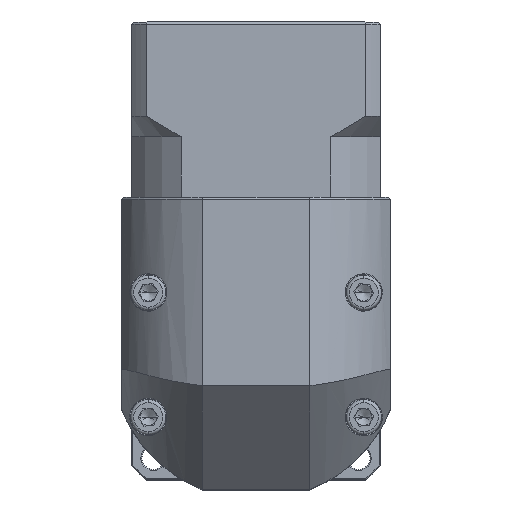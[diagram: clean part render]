
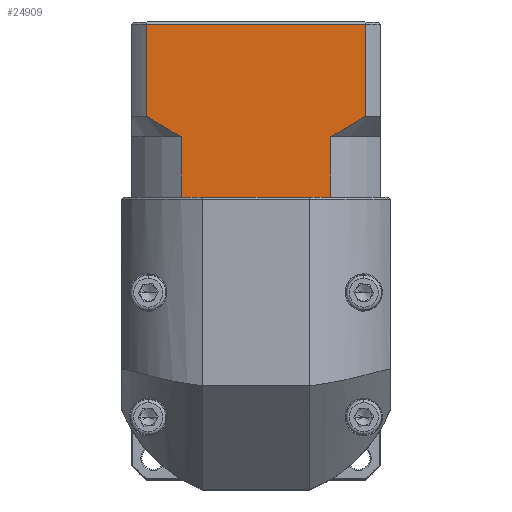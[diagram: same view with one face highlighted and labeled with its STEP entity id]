
A CAD part, top view. The second image highlights one B-rep face of the part: STEP entity #24909.
In plain terms, the highlighted planar face has unit normal (0, 0, 1).
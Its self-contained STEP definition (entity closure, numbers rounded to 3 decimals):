
#216 = ORIENTED_EDGE ( 'NONE', *, *, #7151, .T. ) ;
#362 = CARTESIAN_POINT ( 'NONE',  ( -38.563, 75.791, 65.811 ) ) ;
#4915 = EDGE_CURVE ( 'NONE', #25728, #63348, #88517, .T. ) ;
#4984 = VERTEX_POINT ( 'NONE', #103372 ) ;
#5511 = DIRECTION ( 'NONE',  ( 0., 1., 0. ) ) ;
#7151 = EDGE_CURVE ( 'NONE', #29770, #32203, #36703, .T. ) ;
#7236 = VECTOR ( 'NONE', #51003, 1000. ) ;
#8740 = VERTEX_POINT ( 'NONE', #72104 ) ;
#8948 = CARTESIAN_POINT ( 'NONE',  ( -39.943, 74.918, 65.811 ) ) ;
#10022 = ORIENTED_EDGE ( 'NONE', *, *, #55345, .T. ) ;
#10100 = CARTESIAN_POINT ( 'NONE',  ( -83.138, 72.441, 65.811 ) ) ;
#11145 = LINE ( 'NONE', #62899, #7236 ) ;
#11556 = B_SPLINE_CURVE_WITH_KNOTS ( 'NONE', 3,
 ( #26840, #58766, #59112, #27187, #10100, #18283 ),
 .UNSPECIFIED., .F., .F.,
 ( 4, 2, 4 ),
 ( 0.052, 0.057, 0.062 ),
 .UNSPECIFIED. ) ;
#13580 = LINE ( 'NONE', #79124, #67376 ) ;
#16104 = CARTESIAN_POINT ( 'NONE',  ( -37.2, 76.693, 65.811 ) ) ;
#17168 = CARTESIAN_POINT ( 'NONE',  ( -42.748, 73.243, 65.811 ) ) ;
#17238 = ORIENTED_EDGE ( 'NONE', *, *, #45209, .T. ) ;
#17414 = PLANE ( 'NONE',  #31378 ) ;
#17540 = CARTESIAN_POINT ( 'NONE',  ( -37.2, 98.893, 65.811 ) ) ;
#18009 = VERTEX_POINT ( 'NONE', #94153 ) ;
#18283 = CARTESIAN_POINT ( 'NONE',  ( -81.686, 71.693, 65.811 ) ) ;
#21487 = VECTOR ( 'NONE', #63011, 1000. ) ;
#24493 = VECTOR ( 'NONE', #101453, 1000. ) ;
#24909 = ADVANCED_FACE ( 'NONE', ( #25794 ), #17414, .F. ) ;
#25728 = VERTEX_POINT ( 'NONE', #17540 ) ;
#25794 = FACE_OUTER_BOUND ( 'NONE', #30630, .T. ) ;
#26042 = LINE ( 'NONE', #78536, #33122 ) ;
#26840 = CARTESIAN_POINT ( 'NONE',  ( -90.116, 76.693, 65.811 ) ) ;
#27187 = CARTESIAN_POINT ( 'NONE',  ( -84.569, 73.244, 65.811 ) ) ;
#27261 = LINE ( 'NONE', #84218, #77220 ) ;
#28247 = EDGE_CURVE ( 'NONE', #25728, #32203, #26042, .T. ) ;
#29770 = VERTEX_POINT ( 'NONE', #71324 ) ;
#30342 = CARTESIAN_POINT ( 'NONE',  ( -46.621, 57.193, 65.811 ) ) ;
#30630 = EDGE_LOOP ( 'NONE', ( #101442, #48460, #69856, #10022, #73555, #98893, #74702, #17238, #54067, #216 ) ) ;
#31378 = AXIS2_PLACEMENT_3D ( 'NONE', #75385, #100030, #75035 ) ;
#32203 = VERTEX_POINT ( 'NONE', #88968 ) ;
#33122 = VECTOR ( 'NONE', #71009, 1000. ) ;
#36055 = CARTESIAN_POINT ( 'NONE',  ( -45.63, 71.693, 65.811 ) ) ;
#36703 = B_SPLINE_CURVE_WITH_KNOTS ( 'NONE', 3,
 ( #57241, #90544, #17168, #8948, #362, #16104 ),
 .UNSPECIFIED., .F., .F.,
 ( 4, 2, 4 ),
 ( 0.1, 0.104, 0.109 ),
 .UNSPECIFIED. ) ;
#36941 = VERTEX_POINT ( 'NONE', #43299 ) ;
#43079 = EDGE_CURVE ( 'NONE', #45785, #4984, #27261, .T. ) ;
#43299 = CARTESIAN_POINT ( 'NONE',  ( -90.116, 76.693, 65.811 ) ) ;
#43752 = CARTESIAN_POINT ( 'NONE',  ( -90.116, 98.893, 65.811 ) ) ;
#44789 = CARTESIAN_POINT ( 'NONE',  ( -93.658, 98.893, 65.811 ) ) ;
#45122 = LINE ( 'NONE', #53904, #54024 ) ;
#45209 = EDGE_CURVE ( 'NONE', #81130, #8740, #68834, .T. ) ;
#45601 = EDGE_CURVE ( 'NONE', #36941, #63348, #11145, .T. ) ;
#45706 = DIRECTION ( 'NONE',  ( 1., 0., 0. ) ) ;
#45785 = VERTEX_POINT ( 'NONE', #61713 ) ;
#48460 = ORIENTED_EDGE ( 'NONE', *, *, #4915, .T. ) ;
#51003 = DIRECTION ( 'NONE',  ( 0., 1., 0. ) ) ;
#53360 = DIRECTION ( 'NONE',  ( -1., 0., 0. ) ) ;
#53904 = CARTESIAN_POINT ( 'NONE',  ( -93.658, 57.193, 65.811 ) ) ;
#54024 = VECTOR ( 'NONE', #45706, 1000. ) ;
#54067 = ORIENTED_EDGE ( 'NONE', *, *, #68582, .F. ) ;
#55345 = EDGE_CURVE ( 'NONE', #36941, #4984, #11556, .T. ) ;
#56489 = VECTOR ( 'NONE', #53360, 1000. ) ;
#57241 = CARTESIAN_POINT ( 'NONE',  ( -45.63, 71.693, 65.811 ) ) ;
#58766 = CARTESIAN_POINT ( 'NONE',  ( -88.756, 75.793, 65.811 ) ) ;
#59112 = CARTESIAN_POINT ( 'NONE',  ( -87.377, 74.92, 65.811 ) ) ;
#61699 = LINE ( 'NONE', #36055, #24493 ) ;
#61713 = CARTESIAN_POINT ( 'NONE',  ( -81.686, 57.193, 65.811 ) ) ;
#62899 = CARTESIAN_POINT ( 'NONE',  ( -90.116, 71.693, 65.811 ) ) ;
#63011 = DIRECTION ( 'NONE',  ( 1., 0., 0. ) ) ;
#63348 = VERTEX_POINT ( 'NONE', #43752 ) ;
#67376 = VECTOR ( 'NONE', #78757, 1000. ) ;
#68582 = EDGE_CURVE ( 'NONE', #29770, #8740, #61699, .T. ) ;
#68834 = LINE ( 'NONE', #79154, #21487 ) ;
#69856 = ORIENTED_EDGE ( 'NONE', *, *, #45601, .F. ) ;
#71009 = DIRECTION ( 'NONE',  ( 0., -1., 0. ) ) ;
#71324 = CARTESIAN_POINT ( 'NONE',  ( -45.63, 71.693, 65.811 ) ) ;
#72104 = CARTESIAN_POINT ( 'NONE',  ( -45.63, 57.193, 65.811 ) ) ;
#73555 = ORIENTED_EDGE ( 'NONE', *, *, #43079, .F. ) ;
#73747 = EDGE_CURVE ( 'NONE', #18009, #81130, #13580, .T. ) ;
#74702 = ORIENTED_EDGE ( 'NONE', *, *, #73747, .T. ) ;
#75035 = DIRECTION ( 'NONE',  ( 0., 1., 0. ) ) ;
#75385 = CARTESIAN_POINT ( 'NONE',  ( -93.658, 99.393, 65.811 ) ) ;
#77220 = VECTOR ( 'NONE', #5511, 1000. ) ;
#78536 = CARTESIAN_POINT ( 'NONE',  ( -37.2, 71.693, 65.811 ) ) ;
#78757 = DIRECTION ( 'NONE',  ( 1., 0., 0. ) ) ;
#79124 = CARTESIAN_POINT ( 'NONE',  ( -93.658, 57.193, 65.811 ) ) ;
#79154 = CARTESIAN_POINT ( 'NONE',  ( -93.658, 57.193, 65.811 ) ) ;
#81130 = VERTEX_POINT ( 'NONE', #30342 ) ;
#84218 = CARTESIAN_POINT ( 'NONE',  ( -81.686, 71.693, 65.811 ) ) ;
#88517 = LINE ( 'NONE', #44789, #56489 ) ;
#88968 = CARTESIAN_POINT ( 'NONE',  ( -37.2, 76.693, 65.811 ) ) ;
#90544 = CARTESIAN_POINT ( 'NONE',  ( -44.174, 72.443, 65.811 ) ) ;
#91970 = EDGE_CURVE ( 'NONE', #45785, #18009, #45122, .T. ) ;
#94153 = CARTESIAN_POINT ( 'NONE',  ( -80.695, 57.193, 65.811 ) ) ;
#98893 = ORIENTED_EDGE ( 'NONE', *, *, #91970, .T. ) ;
#100030 = DIRECTION ( 'NONE',  ( 0., 0., -1. ) ) ;
#101442 = ORIENTED_EDGE ( 'NONE', *, *, #28247, .F. ) ;
#101453 = DIRECTION ( 'NONE',  ( 0., -1., 0. ) ) ;
#103372 = CARTESIAN_POINT ( 'NONE',  ( -81.686, 71.693, 65.811 ) ) ;
